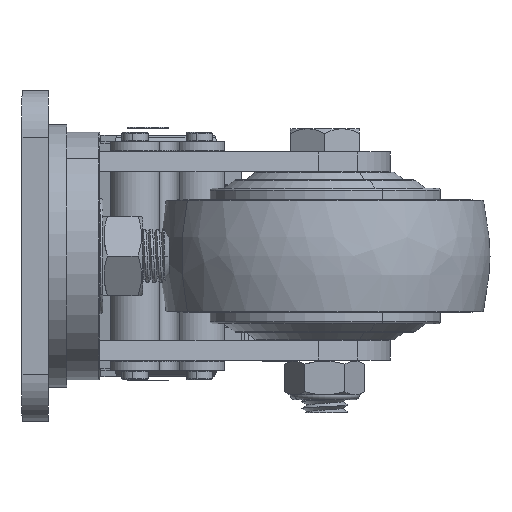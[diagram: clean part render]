
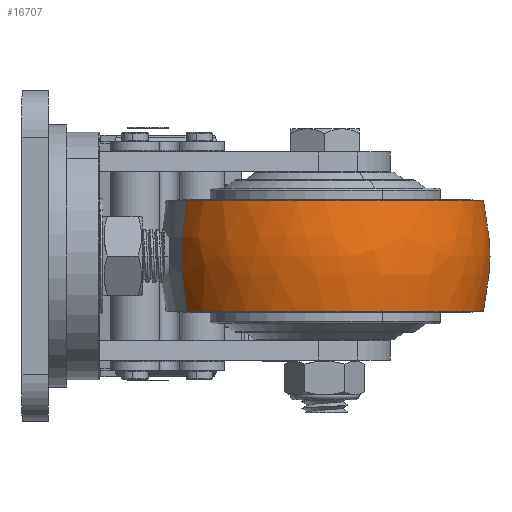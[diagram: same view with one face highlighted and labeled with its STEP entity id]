
A CAD part, left-side view. The second image highlights one B-rep face of the part: STEP entity #16707.
In plain terms, the highlighted free-form (B-spline) face has degree [3, 3] with [7, 4] control points.
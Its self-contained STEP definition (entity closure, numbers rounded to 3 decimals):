
#16419=CARTESIAN_POINT('',(17.108,-72.734,
0.));
#16420=DIRECTION('',(-0.866,-0.5,0.));
#16421=DIRECTION('',(0.486,-0.842,-0.234));
#16422=AXIS2_PLACEMENT_3D('',#16419,#16420,#16421);
#16424=CARTESIAN_POINT('',(38.892,-110.466,
0.));
#16425=DIRECTION('',(0.866,0.5,0.));
#16426=DIRECTION('',(-0.486,0.842,-0.234));
#16427=AXIS2_PLACEMENT_3D('',#16424,#16425,#16426);
#16429=CARTESIAN_POINT('',(28.,-91.6,16.821));
#16430=DIRECTION('',(0.,0.,1.));
#16431=DIRECTION('',(-0.5,0.866,0.));
#16432=AXIS2_PLACEMENT_3D('',#16429,#16430,#16431);
#16447=CARTESIAN_POINT('',(28.,-91.6,-16.821));
#16448=DIRECTION('',(0.,0.,1.));
#16449=DIRECTION('',(-0.5,0.866,0.));
#16450=AXIS2_PLACEMENT_3D('',#16447,#16448,#16449);
#16527=CARTESIAN_POINT('',(52.001,-133.17,
16.821));
#16528=CARTESIAN_POINT('',(3.999,-50.03,
16.821));
#16529=VERTEX_POINT('',#16527);
#16530=VERTEX_POINT('',#16528);
#16531=CARTESIAN_POINT('',(52.001,-133.17,
-16.821));
#16532=CARTESIAN_POINT('',(3.999,-50.03,
-16.821));
#16533=VERTEX_POINT('',#16531);
#16534=VERTEX_POINT('',#16532);
#16670=CARTESIAN_POINT('',(6.729,-48.75,
-17.481));
#16671=CARTESIAN_POINT('',(5.441,-46.156,
-5.946));
#16672=CARTESIAN_POINT('',(5.441,-46.156,
5.946));
#16673=CARTESIAN_POINT('',(6.729,-48.75,
17.481));
#16674=CARTESIAN_POINT('',(-19.641,-61.84,
-17.481));
#16675=CARTESIAN_POINT('',(-22.525,-60.039,
-5.946));
#16676=CARTESIAN_POINT('',(-22.525,-60.039,
5.946));
#16677=CARTESIAN_POINT('',(-19.641,-61.84,
17.481));
#16678=CARTESIAN_POINT('',(-28.15,-90.024,
-17.481));
#16679=CARTESIAN_POINT('',(-31.549,-89.928,
-5.946));
#16680=CARTESIAN_POINT('',(-31.549,-89.928,
5.946));
#16681=CARTESIAN_POINT('',(-28.15,-90.024,
17.481));
#16682=CARTESIAN_POINT('',(-13.43,-115.52,
-17.481));
#16683=CARTESIAN_POINT('',(-15.938,-116.968,
-5.946));
#16684=CARTESIAN_POINT('',(-15.938,-116.968,
5.946));
#16685=CARTESIAN_POINT('',(-13.43,-115.52,
17.481));
#16686=CARTESIAN_POINT('',(1.29,-141.015,
-17.481));
#16687=CARTESIAN_POINT('',(-0.327,-144.007,
-5.946));
#16688=CARTESIAN_POINT('',(-0.327,-144.007,
5.946));
#16689=CARTESIAN_POINT('',(1.29,-141.015,
17.481));
#16690=CARTESIAN_POINT('',(29.952,-147.738,
-17.481));
#16691=CARTESIAN_POINT('',(30.071,-151.136,
-5.946));
#16692=CARTESIAN_POINT('',(30.071,-151.136,
5.946));
#16693=CARTESIAN_POINT('',(29.952,-147.738,
17.481));
#16694=CARTESIAN_POINT('',(54.474,-131.446,
-17.481));
#16695=CARTESIAN_POINT('',(56.076,-133.858,
-5.946));
#16696=CARTESIAN_POINT('',(56.076,-133.858,
5.946));
#16697=CARTESIAN_POINT('',(54.474,-131.446,
17.481));
#16698=(BOUNDED_SURFACE()B_SPLINE_SURFACE(3,3,((#16670,#16671,#16672,#16673),(
#16674,#16675,#16676,#16677),(#16678,#16679,#16680,#16681),(#16682,#16683,
#16684,#16685),(#16686,#16687,#16688,#16689),(#16690,#16691,#16692,#16693),(
#16694,#16695,#16696,#16697)),.UNSPECIFIED.,.F.,.F.,.F.)B_SPLINE_SURFACE_WITH_KNOTS((4,3,4),(4,4),(0.,1.,2.),(0.,1.),.UNSPECIFIED.)GEOMETRIC_REPRESENTATION_ITEM()RATIONAL_B_SPLINE_SURFACE(((1.205,1.181,
1.181,1.205),(0.952,0.933,
0.933,0.952),(0.952,0.933,
0.933,0.952),(1.205,1.181,
1.181,1.205),(0.952,0.933,
0.933,0.952),(0.952,0.933,
0.933,0.952),(1.205,1.181,
1.181,1.205)))REPRESENTATION_ITEM('')SURFACE());
#16700=ORIENTED_EDGE('',*,*,#16699,.T.);
#16701=ORIENTED_EDGE('',*,*,#16658,.F.);
#16703=ORIENTED_EDGE('',*,*,#16702,.F.);
#16704=ORIENTED_EDGE('',*,*,#16654,.T.);
#16705=EDGE_LOOP('',(#16700,#16701,#16703,#16704));
#16706=FACE_OUTER_BOUND('',#16705,.F.);
#16423=CIRCLE('',#16422,71.784);
#16428=CIRCLE('',#16427,71.784);
#16433=CIRCLE('',#16432,48.001);
#16451=CIRCLE('',#16450,48.001);
#16654=EDGE_CURVE('',#16534,#16530,#16428,.T.);
#16658=EDGE_CURVE('',#16533,#16529,#16423,.T.);
#16699=EDGE_CURVE('',#16530,#16529,#16433,.T.);
#16702=EDGE_CURVE('',#16534,#16533,#16451,.T.);
#16707=ADVANCED_FACE('',(#16706),#16698,.T.);
